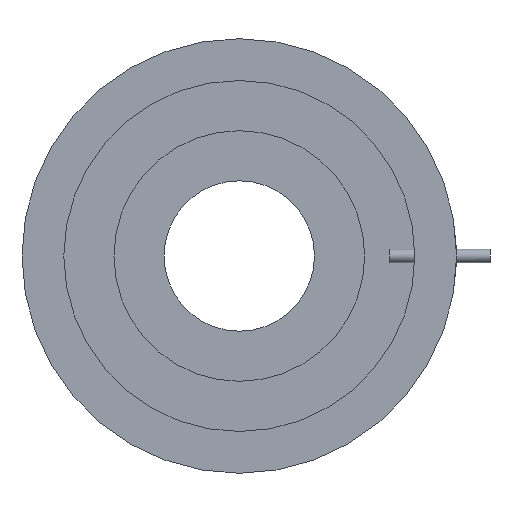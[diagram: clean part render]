
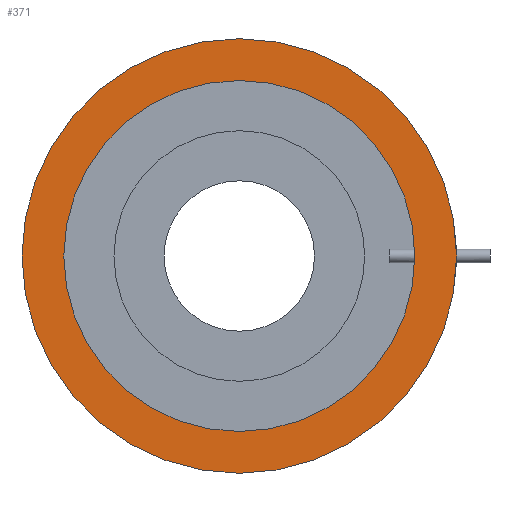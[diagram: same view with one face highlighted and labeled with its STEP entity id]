
A CAD part, front view. The second image highlights one B-rep face of the part: STEP entity #371.
In plain terms, the highlighted planar face has unit normal (0, -1, 0).
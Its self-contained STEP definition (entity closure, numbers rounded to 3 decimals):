
#11 = CARTESIAN_POINT ( 'NONE',  ( 0., -58., -52.5 ) ) ;
#25 = EDGE_CURVE ( 'NONE', #957, #843, #1443, .T. ) ;
#217 = CARTESIAN_POINT ( 'NONE',  ( 0., -58., 0. ) ) ;
#225 = DIRECTION ( 'NONE',  ( 0., 1., 0. ) ) ;
#289 = AXIS2_PLACEMENT_3D ( 'NONE', #1049, #339, #578 ) ;
#297 = CARTESIAN_POINT ( 'NONE',  ( 0., -58., -65. ) ) ;
#316 = PLANE ( 'NONE',  #1309 ) ;
#334 = CIRCLE ( 'NONE', #1082, 65. ) ;
#339 = DIRECTION ( 'NONE',  ( 0., 1., 0. ) ) ;
#340 = DIRECTION ( 'NONE',  ( 0., 1., 0. ) ) ;
#371 = ADVANCED_FACE ( 'NONE', ( #683, #666 ), #316, .T. ) ;
#419 = CARTESIAN_POINT ( 'NONE',  ( 0., -58., 0. ) ) ;
#421 = EDGE_LOOP ( 'NONE', ( #491, #438 ) ) ;
#435 = AXIS2_PLACEMENT_3D ( 'NONE', #419, #225, #897 ) ;
#438 = ORIENTED_EDGE ( 'NONE', *, *, #804, .F. ) ;
#476 = CIRCLE ( 'NONE', #779, 52.5 ) ;
#491 = ORIENTED_EDGE ( 'NONE', *, *, #949, .F. ) ;
#578 = DIRECTION ( 'NONE',  ( 0., 0., 1. ) ) ;
#579 = DIRECTION ( 'NONE',  ( 0., 1., 0. ) ) ;
#666 = FACE_OUTER_BOUND ( 'NONE', #421, .T. ) ;
#683 = FACE_BOUND ( 'NONE', #879, .T. ) ;
#779 = AXIS2_PLACEMENT_3D ( 'NONE', #217, #340, #1504 ) ;
#789 = CIRCLE ( 'NONE', #435, 65. ) ;
#804 = EDGE_CURVE ( 'NONE', #1126, #1016, #789, .T. ) ;
#843 = VERTEX_POINT ( 'NONE', #1047 ) ;
#879 = EDGE_LOOP ( 'NONE', ( #1344, #1301 ) ) ;
#897 = DIRECTION ( 'NONE',  ( 0., 0., 1. ) ) ;
#925 = CARTESIAN_POINT ( 'NONE',  ( -52.5, -58., 0. ) ) ;
#949 = EDGE_CURVE ( 'NONE', #1016, #1126, #334, .T. ) ;
#957 = VERTEX_POINT ( 'NONE', #11 ) ;
#1016 = VERTEX_POINT ( 'NONE', #1279 ) ;
#1047 = CARTESIAN_POINT ( 'NONE',  ( 0., -58., 52.5 ) ) ;
#1049 = CARTESIAN_POINT ( 'NONE',  ( 0., -58., 0. ) ) ;
#1082 = AXIS2_PLACEMENT_3D ( 'NONE', #1400, #579, #1291 ) ;
#1126 = VERTEX_POINT ( 'NONE', #297 ) ;
#1162 = DIRECTION ( 'NONE',  ( 0., -1., 0. ) ) ;
#1279 = CARTESIAN_POINT ( 'NONE',  ( 0., -58., 65. ) ) ;
#1291 = DIRECTION ( 'NONE',  ( 0., 0., 1. ) ) ;
#1301 = ORIENTED_EDGE ( 'NONE', *, *, #25, .T. ) ;
#1309 = AXIS2_PLACEMENT_3D ( 'NONE', #925, #1162, #1490 ) ;
#1344 = ORIENTED_EDGE ( 'NONE', *, *, #1432, .T. ) ;
#1400 = CARTESIAN_POINT ( 'NONE',  ( 0., -58., 0. ) ) ;
#1432 = EDGE_CURVE ( 'NONE', #843, #957, #476, .T. ) ;
#1443 = CIRCLE ( 'NONE', #289, 52.5 ) ;
#1490 = DIRECTION ( 'NONE',  ( 0., 0., -1. ) ) ;
#1504 = DIRECTION ( 'NONE',  ( 0., 0., 1. ) ) ;
